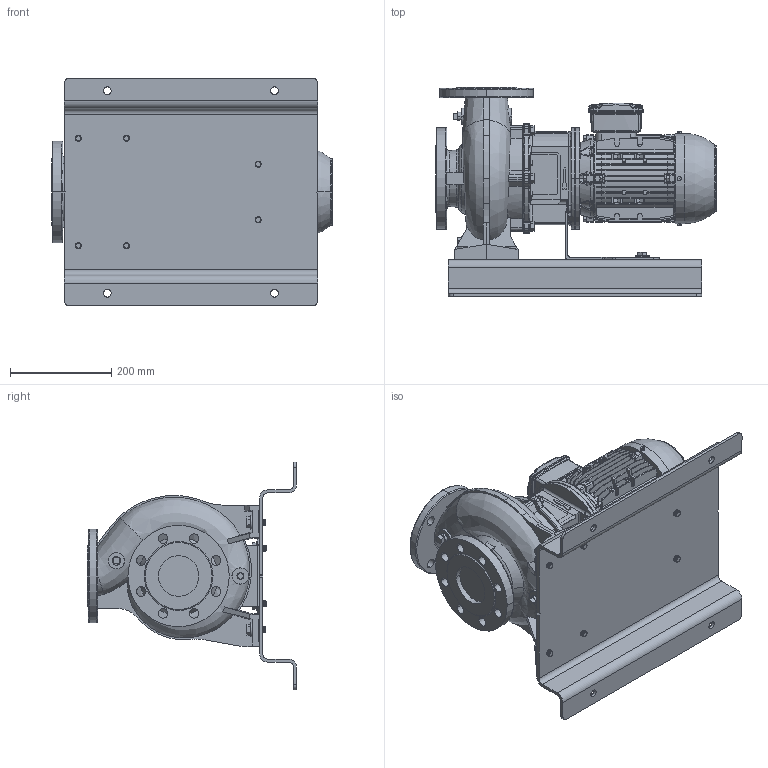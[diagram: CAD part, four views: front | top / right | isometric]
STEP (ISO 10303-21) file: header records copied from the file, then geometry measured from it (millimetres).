
FILE_DESCRIPTION (( 'STEP AP214' ), '1' );
FILE_NAME ('GSD4 65-125_1.1 & 1.5_(90SL)_W21_BP.STEP', '2024-08-14T23:49:53', ( '' ), ( '' ), 'SwSTEP 2.0', 'SolidWorks 2019', '' );
FILE_SCHEMA (( 'AUTOMOTIVE_DESIGN' ));
Length unit declared in the file: millimetre
Products named in the file (14): Parametric bolt and washer_SFT-A299B; Parametric bolt and washer_SFT-A295B; 90S_L ALIE3_W21T_B5; GSD4 65-125_1.1 & 1.5_(90SL)_W21_BP; N4S6 GSDA-461 F1-1832911-00; CGSD1-4153; Parametric Flat Washer_M12; Parametric bolt_SFT-A299B; Parametric bolt_SFT-A295B; 65-125-90S_L_______
Assembly tree (22 placements, depth 3):
  GSD4 65-125_1.1 & 1.5_(90SL)_W21_BP
    65-125-90S_L_______
    90S_L ALIE3_W21T_B5
    N4S6 GSDA-461 F1-1832911-00
    CGSD1-4153
    Parametric bolt and washer_SFT-A295B
      Parametric bolt_SFT-A295B
      Parametric Flat Washer_M12
    Parametric bolt and washer_SFT-A295B
      Parametric bolt_SFT-A295B
      Parametric Flat Washer_M12
    Parametric bolt and washer_SFT-A299B
      Parametric bolt_SFT-A299B
      Parametric Flat Washer_M12
    Parametric bolt and washer_SFT-A299B
      Parametric bolt_SFT-A299B
      Parametric Flat Washer_M12
    Parametric bolt and washer_SFT-A299B
      Parametric bolt_SFT-A299B
      Parametric Flat Washer_M12
    Parametric bolt and washer_SFT-A299B
      Parametric bolt_SFT-A299B
      Parametric Flat Washer_M12
Bounding box: 554 x 412.78 x 450 mm (x, y, z)
Volume: 16062115.4 mm3; surface area: 1748329.3 mm2
Topology: 18 solids, 22 shells, 3713 faces, 9771 edges, 6282 vertices
Faces by surface type: plane 1924, cylinder 1031, torus 298, bspline 256, cone 182, sphere 22
Entity records: 189982 total; most frequent: CARTESIAN_POINT 105960, ORIENTED_EDGE 18268, DIRECTION 16211, EDGE_CURVE 9134, VERTEX_POINT 5897, AXIS2_PLACEMENT_3D 5457, LINE 5297, VECTOR 5297
